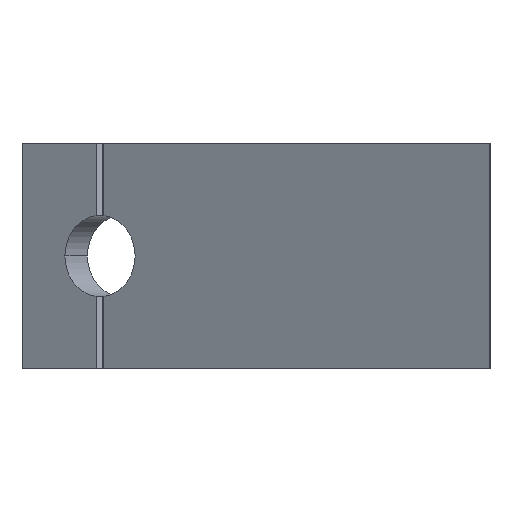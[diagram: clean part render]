
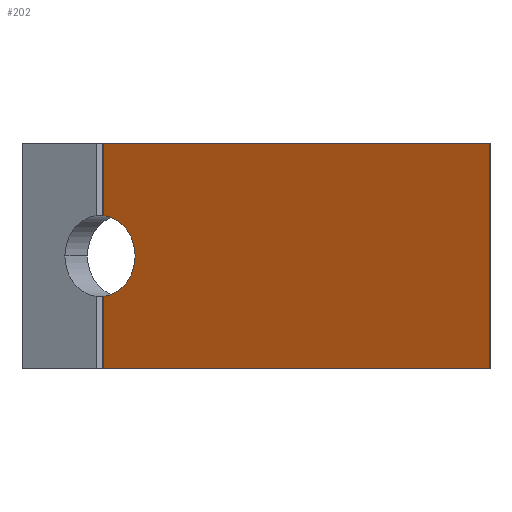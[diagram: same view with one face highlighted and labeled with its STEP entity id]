
A CAD part, left-side view. The second image highlights one B-rep face of the part: STEP entity #202.
In plain terms, the highlighted planar face has unit normal (-0.866, 0.5, 0).
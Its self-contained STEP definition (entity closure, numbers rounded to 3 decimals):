
#31 = CARTESIAN_POINT ( 'NONE',  ( 0., 0., 0. ) ) ;
#34 = VERTEX_POINT ( 'NONE', #1288 ) ;
#37 = VECTOR ( 'NONE', #348, 1000. ) ;
#68 = CIRCLE ( 'NONE', #112, 4.5 ) ;
#108 = CARTESIAN_POINT ( 'NONE',  ( 24.75, 42.868, 21.972 ) ) ;
#112 = AXIS2_PLACEMENT_3D ( 'NONE', #226, #562, #445 ) ;
#148 = DIRECTION ( 'NONE',  ( 0.5, 0.866, 0. ) ) ;
#165 = CARTESIAN_POINT ( 'NONE',  ( 24.75, 42.868, 5. ) ) ;
#172 = CARTESIAN_POINT ( 'NONE',  ( 0., 0., 0. ) ) ;
#174 = VERTEX_POINT ( 'NONE', #701 ) ;
#202 = ADVANCED_FACE ( 'NONE', ( #1127 ), #708, .T. ) ;
#226 = CARTESIAN_POINT ( 'NONE',  ( 25., 43.301, 17.5 ) ) ;
#245 = CARTESIAN_POINT ( 'NONE',  ( 24.75, 42.868, 0. ) ) ;
#251 = EDGE_CURVE ( 'NONE', #629, #955, #1099, .T. ) ;
#252 = ORIENTED_EDGE ( 'NONE', *, *, #487, .T. ) ;
#259 = LINE ( 'NONE', #245, #291 ) ;
#276 = AXIS2_PLACEMENT_3D ( 'NONE', #172, #1025, #587 ) ;
#288 = VECTOR ( 'NONE', #986, 1000. ) ;
#291 = VECTOR ( 'NONE', #1096, 1000. ) ;
#332 = VERTEX_POINT ( 'NONE', #108 ) ;
#348 = DIRECTION ( 'NONE',  ( 0., 0., -1. ) ) ;
#354 = DIRECTION ( 'NONE',  ( 0.5, 0.866, 0. ) ) ;
#411 = EDGE_CURVE ( 'NONE', #174, #34, #68, .T. ) ;
#416 = VERTEX_POINT ( 'NONE', #854 ) ;
#422 = VERTEX_POINT ( 'NONE', #866 ) ;
#427 = EDGE_LOOP ( 'NONE', ( #608, #508, #252, #1082, #472, #989, #1270 ) ) ;
#445 = DIRECTION ( 'NONE',  ( 0.5, 0.866, 0. ) ) ;
#452 = LINE ( 'NONE', #31, #288 ) ;
#464 = VECTOR ( 'NONE', #148, 1000. ) ;
#471 = DIRECTION ( 'NONE',  ( 0.866, -0.5, 0. ) ) ;
#472 = ORIENTED_EDGE ( 'NONE', *, *, #833, .T. ) ;
#487 = EDGE_CURVE ( 'NONE', #955, #422, #452, .T. ) ;
#498 = DIRECTION ( 'NONE',  ( -0.5, -0.866, 0. ) ) ;
#508 = ORIENTED_EDGE ( 'NONE', *, *, #251, .T. ) ;
#562 = DIRECTION ( 'NONE',  ( 0.866, -0.5, 0. ) ) ;
#587 = DIRECTION ( 'NONE',  ( -0.5, -0.866, 0. ) ) ;
#608 = ORIENTED_EDGE ( 'NONE', *, *, #1312, .T. ) ;
#629 = VERTEX_POINT ( 'NONE', #165 ) ;
#637 = AXIS2_PLACEMENT_3D ( 'NONE', #1311, #471, #354 ) ;
#662 = LINE ( 'NONE', #677, #464 ) ;
#675 = LINE ( 'NONE', #1283, #37 ) ;
#677 = CARTESIAN_POINT ( 'NONE',  ( 0., 0., 30. ) ) ;
#701 = CARTESIAN_POINT ( 'NONE',  ( 22.75, 39.404, 17.5 ) ) ;
#708 = PLANE ( 'NONE',  #276 ) ;
#825 = EDGE_CURVE ( 'NONE', #422, #416, #662, .T. ) ;
#833 = EDGE_CURVE ( 'NONE', #416, #332, #259, .T. ) ;
#847 = EDGE_CURVE ( 'NONE', #332, #174, #1232, .T. ) ;
#854 = CARTESIAN_POINT ( 'NONE',  ( 24.75, 42.868, 30. ) ) ;
#866 = CARTESIAN_POINT ( 'NONE',  ( 0., 0., 30. ) ) ;
#955 = VERTEX_POINT ( 'NONE', #1240 ) ;
#986 = DIRECTION ( 'NONE',  ( 0., 0., 1. ) ) ;
#989 = ORIENTED_EDGE ( 'NONE', *, *, #847, .T. ) ;
#1025 = DIRECTION ( 'NONE',  ( -0.866, 0.5, 0. ) ) ;
#1082 = ORIENTED_EDGE ( 'NONE', *, *, #825, .T. ) ;
#1096 = DIRECTION ( 'NONE',  ( 0., 0., -1. ) ) ;
#1099 = LINE ( 'NONE', #1118, #1327 ) ;
#1118 = CARTESIAN_POINT ( 'NONE',  ( 0., 0., 5. ) ) ;
#1127 = FACE_OUTER_BOUND ( 'NONE', #427, .T. ) ;
#1232 = CIRCLE ( 'NONE', #637, 4.5 ) ;
#1240 = CARTESIAN_POINT ( 'NONE',  ( 0., 0., 5. ) ) ;
#1270 = ORIENTED_EDGE ( 'NONE', *, *, #411, .T. ) ;
#1283 = CARTESIAN_POINT ( 'NONE',  ( 24.75, 42.868, 0. ) ) ;
#1288 = CARTESIAN_POINT ( 'NONE',  ( 24.75, 42.868, 13.028 ) ) ;
#1311 = CARTESIAN_POINT ( 'NONE',  ( 25., 43.301, 17.5 ) ) ;
#1312 = EDGE_CURVE ( 'NONE', #34, #629, #675, .T. ) ;
#1327 = VECTOR ( 'NONE', #498, 1000. ) ;
